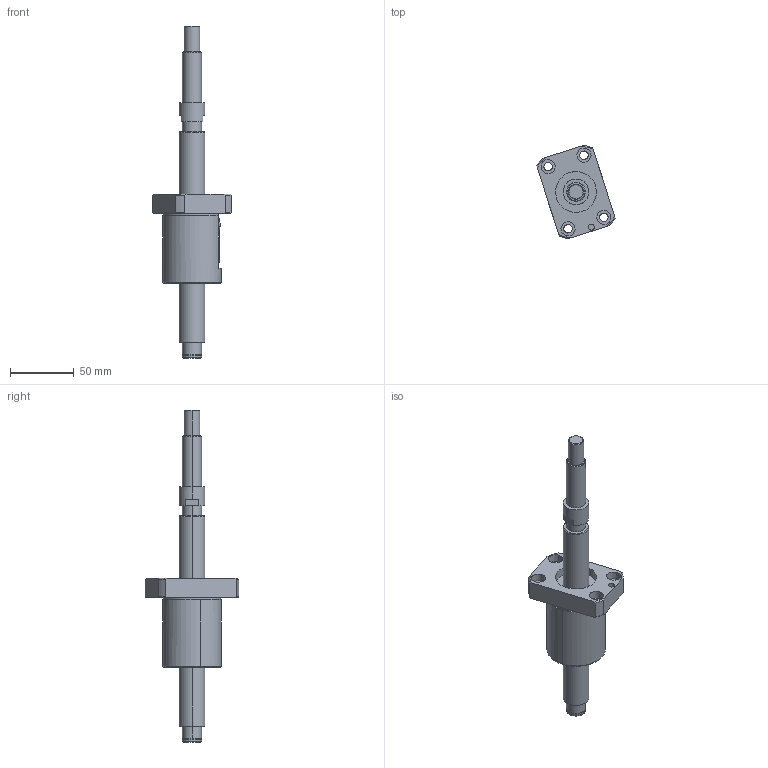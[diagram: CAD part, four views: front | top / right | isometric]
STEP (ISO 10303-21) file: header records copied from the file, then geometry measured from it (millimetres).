
FILE_DESCRIPTION (( 'STEP AP203' ), '1' );
FILE_NAME ('TS2020_assy_20160716.STEP', '2016-07-16T04:55:29', ( 'user' ), ( 'Hewlett-Packard Company' ), 'SwSTEP 2.0', 'SolidWorks 2014', '' );
FILE_SCHEMA (( 'CONFIG_CONTROL_DESIGN' ));
Length unit declared in the file: millimetre
Products named in the file (3): TS2020_nut; TS2020_screw; TS2020_assy_20160716
Assembly tree (2 placements, depth 2):
  TS2020_assy_20160716
    TS2020_nut
    TS2020_screw
Bounding box: 61.47 x 73.06 x 260 mm (x, y, z)
Volume: 168632.8 mm3; surface area: 39175.9 mm2
Topology: 2 solids, 2 shells, 111 faces, 263 edges, 170 vertices
Faces by surface type: cylinder 54, plane 33, cone 20, sphere 4
Entity records: 3558 total; most frequent: DIRECTION 607, CARTESIAN_POINT 603, ORIENTED_EDGE 518, EDGE_CURVE 259, AXIS2_PLACEMENT_3D 252, VERTEX_POINT 168, EDGE_LOOP 137, CIRCLE 136
